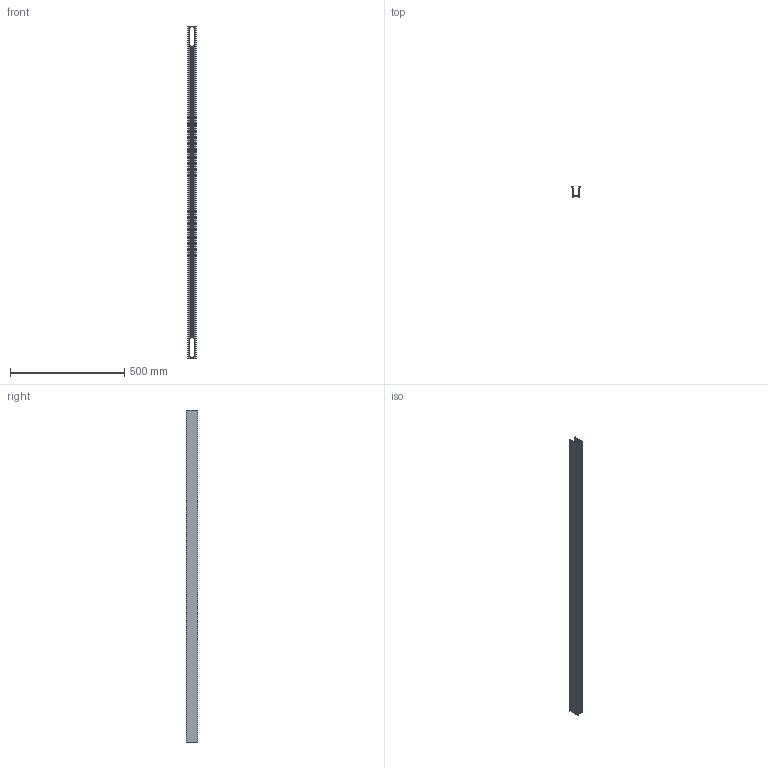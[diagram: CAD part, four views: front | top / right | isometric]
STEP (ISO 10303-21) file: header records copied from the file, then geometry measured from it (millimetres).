
FILE_DESCRIPTION(/* description */ ('Unknown'),/* implementation_level */ '2;1');
FILE_NAME(/* name */ '98357',/* time_stamp */ '2023-02-07T04:27:36-05:00',/* author */ ('Unknown'),/* organization */ ('Unknown'),/* preprocessor_version */ 'ST-DEVELOPER v18.1',/* originating_system */ 'Solid Edge',/* authorisation */ 'Unknown');
FILE_SCHEMA (('AUTOMOTIVE_DESIGN {1 0 10303 214 3 1 1}'));
Length unit declared in the file: millimetre
Products named in the file (1): LED-PRO842
Bounding box: 36 x 49 x 1453 mm (x, y, z)
Volume: 350177.6 mm3; surface area: 411876.2 mm2
Topology: 1 solids, 1 shells, 156 faces, 466 edges, 312 vertices
Faces by surface type: cylinder 100, plane 56
Entity records: 5494 total; most frequent: CARTESIAN_POINT 1269, ORIENTED_EDGE 932, DIRECTION 848, EDGE_CURVE 466, VERTEX_POINT 312, AXIS2_PLACEMENT_3D 305, LINE 238, VECTOR 238
